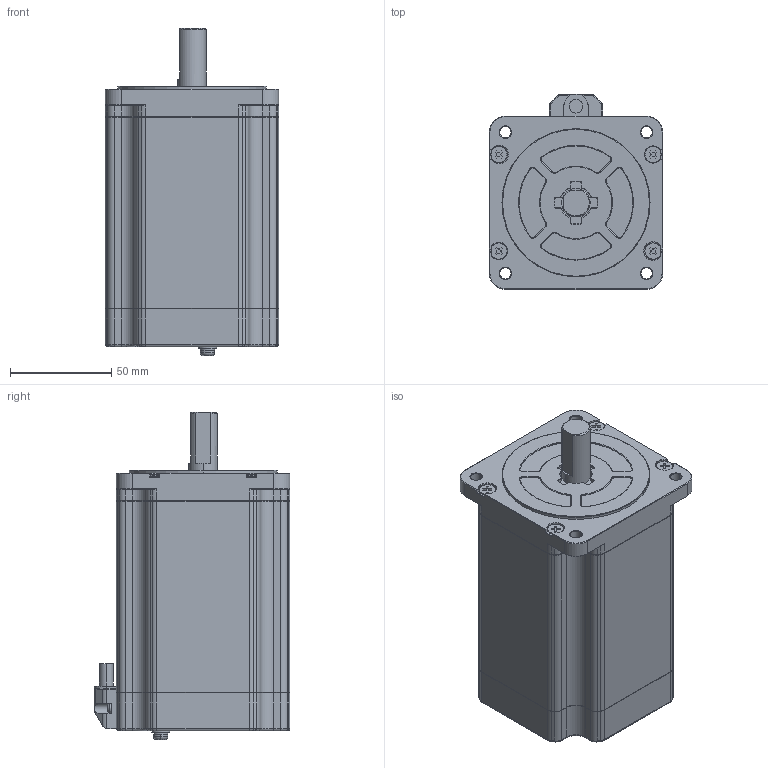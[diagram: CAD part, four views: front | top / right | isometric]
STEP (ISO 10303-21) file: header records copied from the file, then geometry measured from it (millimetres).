
FILE_DESCRIPTION (( 'STEP AP203' ), '1' );
FILE_NAME ('SM2863-0951.STEP', '2012-06-27T11:14:34', ( 'sanyodenki-admin' ), ( '' ), 'SwSTEP 2.0', 'SolidWorks 2011', '' );
FILE_SCHEMA (( 'CONFIG_CONTROL_DESIGN' ));
Length unit declared in the file: millimetre
Products named in the file (1): SM2863-0951
Bounding box: 85.5 x 96.5 x 161.3 mm (x, y, z)
Volume: 836602.3 mm3; surface area: 58012.2 mm2
Topology: 1 solids, 1 shells, 775 faces, 1953 edges, 1201 vertices
Faces by surface type: plane 291, cylinder 272, cone 146, torus 66
Entity records: 23285 total; most frequent: DIRECTION 4276, CARTESIAN_POINT 4076, ORIENTED_EDGE 3906, EDGE_CURVE 1953, AXIS2_PLACEMENT_3D 1581, VERTEX_POINT 1201, LINE 1114, VECTOR 1114
